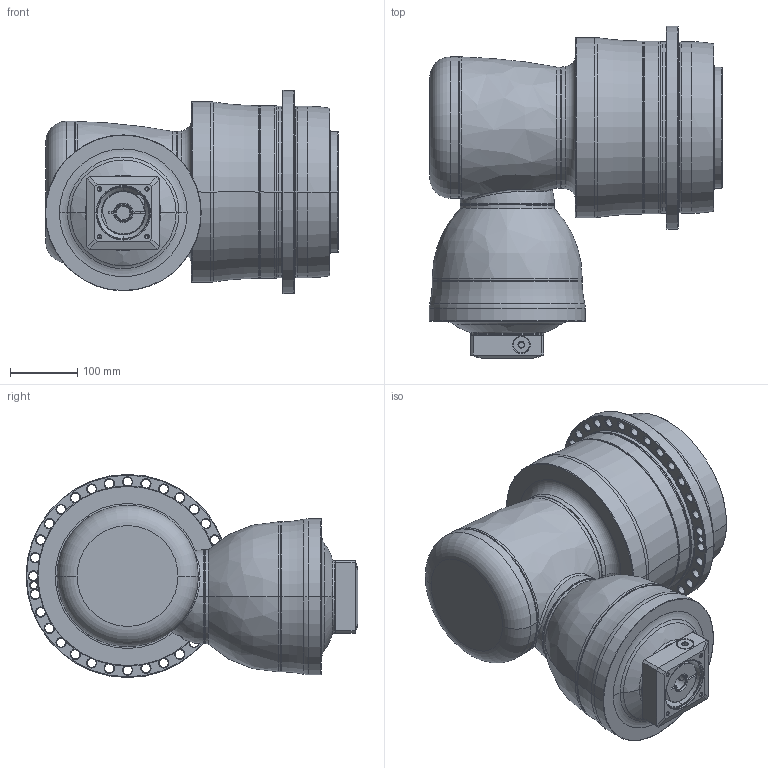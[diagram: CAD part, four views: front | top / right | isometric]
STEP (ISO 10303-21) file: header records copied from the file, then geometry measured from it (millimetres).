
FILE_DESCRIPTION((''),'2;1');
FILE_NAME('APK255_4ST_24-P0409510201_ASM','2018-10-04T',('D00080'),(''),'PRO/ENGINEER BY PARAMETRIC TECHNOLOGY CORPORATION, 2015240','PRO/ENGINEER BY PARAMETRIC TECHNOLOGY CORPORATION, 2015240','');
FILE_SCHEMA(('CONFIG_CONTROL_DESIGN'));
Length unit declared in the file: millimetre
Products named in the file (13): P1008600002; P1832700001; P0278701003; P0359701103; P1211700001; P1315600001; P1007601001; P1317610001; P0503500010; P0912550001; P0409510201; 21711418017; APK255_4ST_24-P0409510201_ASM
Assembly tree (12 placements, depth 2):
  APK255_4ST_24-P0409510201_ASM
    P1008600002
    P1832700001
    P0278701003
    P0359701103
    P1211700001
    P1315600001
    P1007601001
    P1317610001
    P0503500010
    P0912550001
    P0409510201
    21711418017
Bounding box: 436.5 x 493.5 x 302 mm (x, y, z)
Volume: 23714982.5 mm3; surface area: 1402443.8 mm2
Topology: 13 solids, 36 shells, 813 faces, 1904 edges, 1138 vertices
Faces by surface type: cylinder 310, cone 257, plane 121, torus 88, bspline 35, sphere 2
Entity records: 30221 total; most frequent: CARTESIAN_POINT 10927, DIRECTION 4435, ORIENTED_EDGE 3638, AXIS2_PLACEMENT_3D 1901, EDGE_CURVE 1866, VERTEX_POINT 1138, CIRCLE 1086, EDGE_LOOP 956
